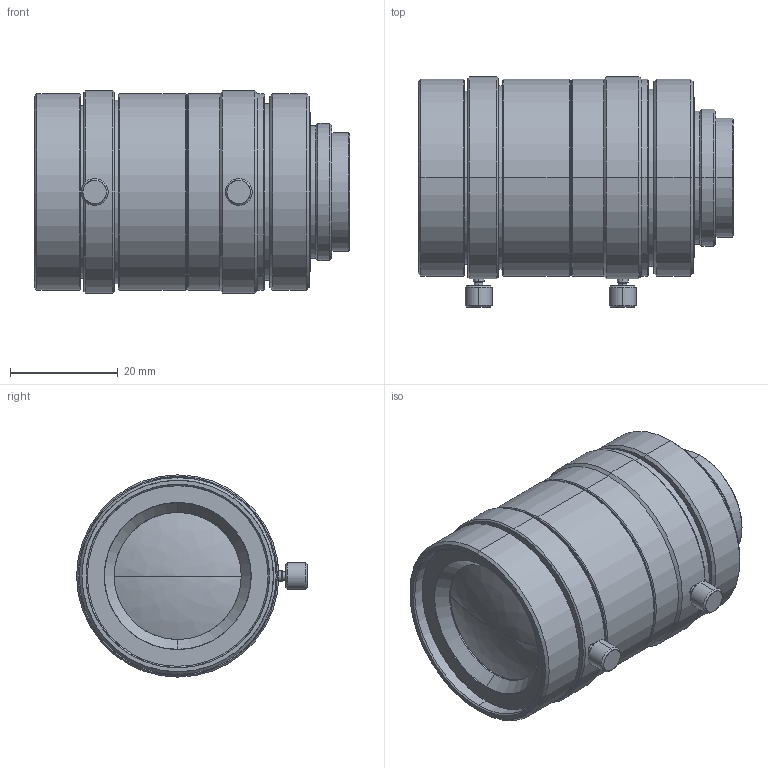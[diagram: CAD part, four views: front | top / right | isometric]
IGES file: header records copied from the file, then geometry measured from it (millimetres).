
Start section: SolidWorks IGES file using analytic representation for surfaces
Global section: file name: C:\Users\matsui_VST\Desktop\AutoCAD図面DATA\●・HVA1226 (VS-HVA1226) (D-2100237)-4_(HVA5024 (VS-HVA5024) (D-2100239)共通)  (３Dモデル)\VS-HVA1226.IGS; native system: SolidWorks 2021; preprocessor: SolidWorks 2021; author: matsui_VST; date: 220322.155811; units: millimetre
Bounding box: 58.49 x 42.8 x 37.5 mm (x, y, z)
Surface area: 10650.2 mm2 (no closed solid volume)
Topology: 0 solids, 0 shells, 121 faces, 2296 edges, 2294 vertices
Faces by surface type: revolution 100, bspline 21
